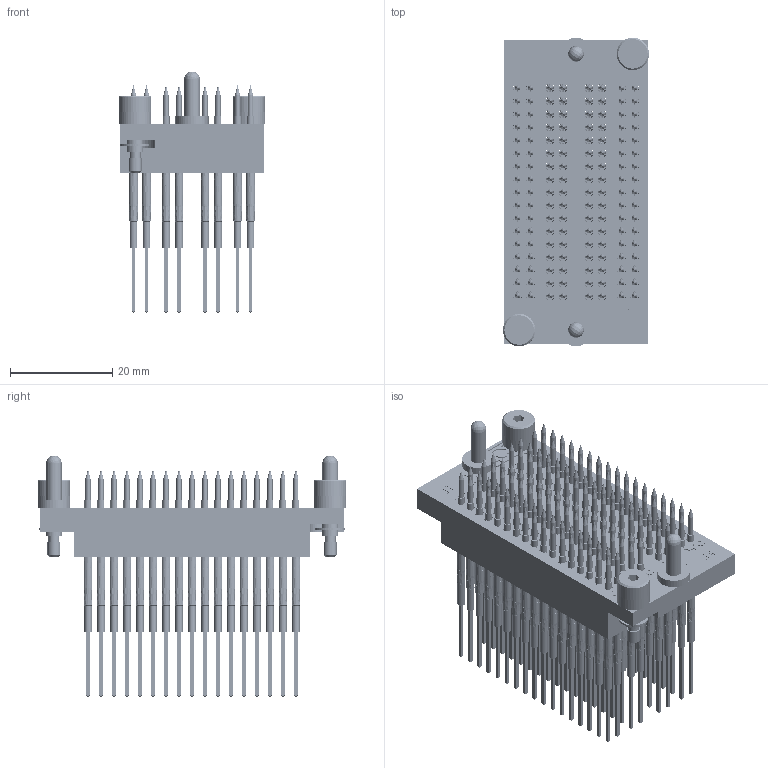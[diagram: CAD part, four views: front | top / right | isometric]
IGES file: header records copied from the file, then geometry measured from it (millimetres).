
Start section: SolidWorks IGES file using analytic representation for surfaces
Global section: file name: O:\820415.IGS; native system: SolidWorks 2016; preprocessor: SolidWorks 2016; author: kgolden; date: 180815.074625; units: millimetre
Bounding box: 28.57 x 60.32 x 47.12 mm (x, y, z)
Surface area: 60527.6 mm2 (no closed solid volume)
Topology: 0 solids, 0 shells, 10788 faces, 90320 edges, 90046 vertices
Faces by surface type: bspline 6890, revolution 3898
